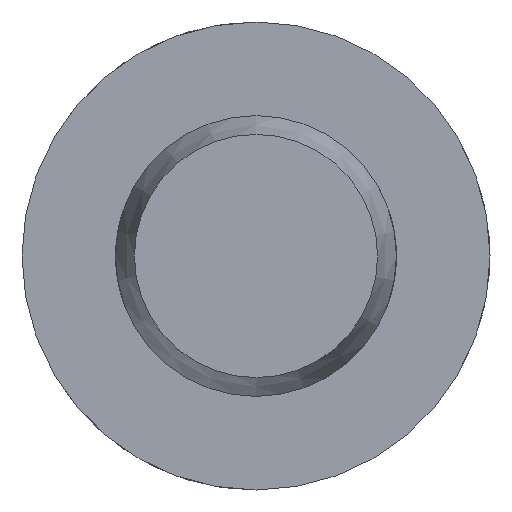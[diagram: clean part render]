
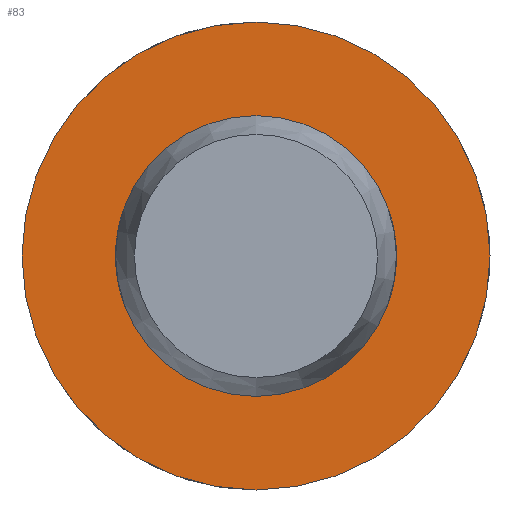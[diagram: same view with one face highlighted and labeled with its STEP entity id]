
A CAD part, left-side view. The second image highlights one B-rep face of the part: STEP entity #83.
In plain terms, the highlighted planar face has unit normal (-1, 0, 0).
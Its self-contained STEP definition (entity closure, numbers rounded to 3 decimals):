
#83 = ADVANCED_FACE( '', ( #128, #129 ), #130, .F. );
#128 = FACE_OUTER_BOUND( '', #205, .T. );
#129 = FACE_BOUND( '', #206, .T. );
#130 = PLANE( '', #207 );
#205 = EDGE_LOOP( '', ( #320 ) );
#206 = EDGE_LOOP( '', ( #321 ) );
#207 = AXIS2_PLACEMENT_3D( '', #322, #323, #324 );
#320 = ORIENTED_EDGE( '', *, *, #484, .F. );
#321 = ORIENTED_EDGE( '', *, *, #474, .T. );
#322 = CARTESIAN_POINT( '', ( 50.6, 6., 0. ) );
#323 = DIRECTION( '', ( 1., 0., 0. ) );
#324 = DIRECTION( '', ( 0., 0., -1. ) );
#474 = EDGE_CURVE( '', #545, #545, #546, .T. );
#484 = EDGE_CURVE( '', #563, #563, #564, .T. );
#545 = VERTEX_POINT( '', #734 );
#546 = CIRCLE( '', #735, 6. );
#563 = VERTEX_POINT( '', #903 );
#564 = CIRCLE( '', #904, 10. );
#734 = CARTESIAN_POINT( '', ( 50.6, 0., -6. ) );
#735 = AXIS2_PLACEMENT_3D( '', #965, #966, #967 );
#903 = CARTESIAN_POINT( '', ( 50.6, 0., -10. ) );
#904 = AXIS2_PLACEMENT_3D( '', #986, #987, #988 );
#965 = CARTESIAN_POINT( '', ( 50.6, 0., 0. ) );
#966 = DIRECTION( '', ( 1., 0., 0. ) );
#967 = DIRECTION( '', ( 0., 0., -1. ) );
#986 = CARTESIAN_POINT( '', ( 50.6, 0., 0. ) );
#987 = DIRECTION( '', ( 1., 0., 0. ) );
#988 = DIRECTION( '', ( 0., 0., -1. ) );
